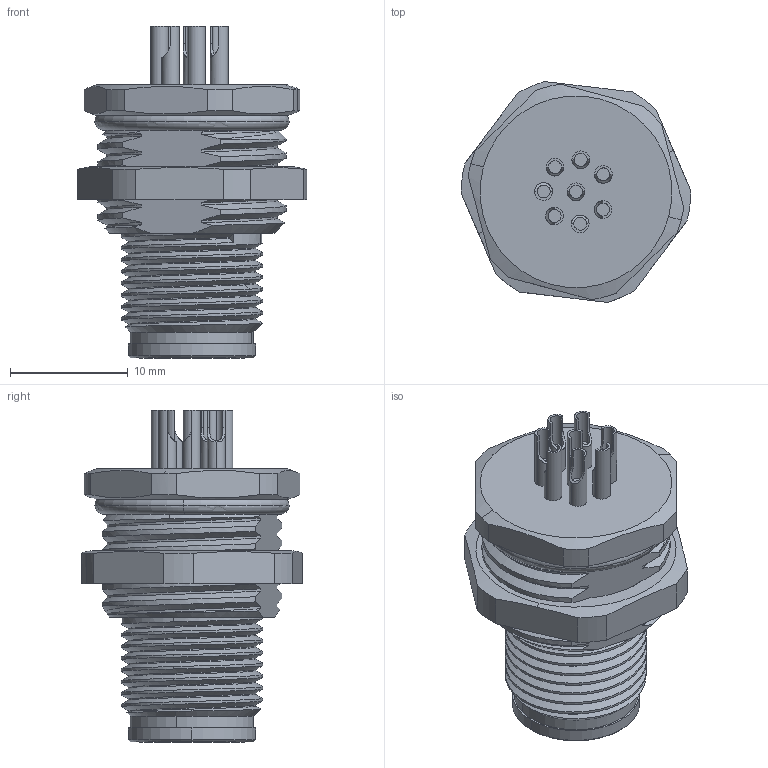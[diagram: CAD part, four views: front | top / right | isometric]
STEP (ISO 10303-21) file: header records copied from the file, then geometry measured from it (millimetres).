
FILE_DESCRIPTION (( 'STEP AP203' ), '1' );
FILE_NAME ('64SC41H.STEP', '2023-10-24T09:29:29', ( 'ADMIN' ), ( '' ), 'SwSTEP 2.0', 'SolidWorks 2016', '' );
FILE_SCHEMA (( 'CONFIG_CONTROL_DESIGN' ));
Length unit declared in the file: millimetre
Products named in the file (1): 64SC41H
Bounding box: 19.5 x 18.76 x 28.2 mm (x, y, z)
Volume: 3238.5 mm3; surface area: 2963 mm2
Topology: 1 solids, 3 shells, 319 faces, 845 edges, 550 vertices
Faces by surface type: cylinder 125, plane 79, bspline 68, cone 40, torus 7
Entity records: 300689 total; most frequent: CARTESIAN_POINT 293146, ORIENTED_EDGE 1690, DIRECTION 1373, EDGE_CURVE 845, VERTEX_POINT 550, AXIS2_PLACEMENT_3D 541, EDGE_LOOP 351, ADVANCED_FACE 319
